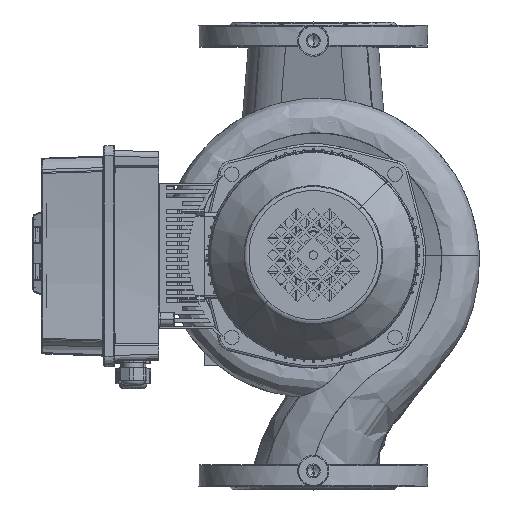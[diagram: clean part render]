
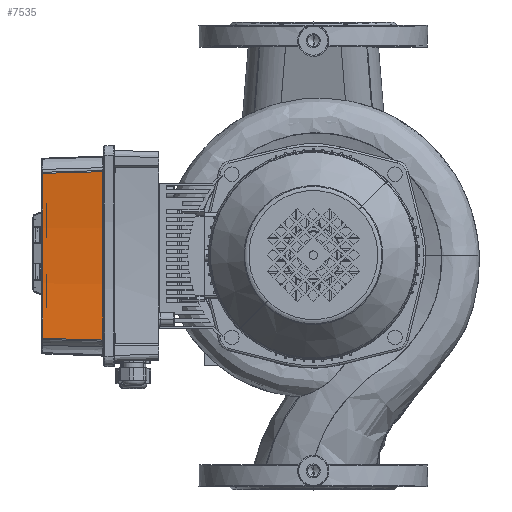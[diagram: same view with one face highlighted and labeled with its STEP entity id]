
A CAD part, top view. The second image highlights one B-rep face of the part: STEP entity #7535.
In plain terms, the highlighted conical face has half-angle 2 degrees and reference radius 845 mm.
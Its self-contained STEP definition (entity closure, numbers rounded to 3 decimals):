
#7535=ADVANCED_FACE('',(#16329),#16330,.F.);
#16329=FACE_OUTER_BOUND('',#36539,.T.);
#16330=CONICAL_SURFACE('',#36540,845.0,0.035);
#36539=EDGE_LOOP('',(#63275,#63276,#63277,#63278));
#36540=AXIS2_PLACEMENT_3D('',#63279,#63280,#63281);
#63275=ORIENTED_EDGE('',*,*,#103606,.F.);
#63276=ORIENTED_EDGE('',*,*,#103661,.F.);
#63277=ORIENTED_EDGE('',*,*,#103622,.F.);
#63278=ORIENTED_EDGE('',*,*,#103650,.F.);
#63279=CARTESIAN_POINT('',(-110.0,1132.065,60.0));
#63280=DIRECTION('',(0.,-0.0,-1.0));
#63281=DIRECTION('',(1.0,0.0,0.));
#103606=EDGE_CURVE('',#131964,#131970,#131971,.T.);
#103622=EDGE_CURVE('',#131991,#131983,#131993,.T.);
#103650=EDGE_CURVE('',#131970,#131991,#132023,.T.);
#103661=EDGE_CURVE('',#131983,#131964,#132035,.T.);
#131964=VERTEX_POINT('',#156665);
#131970=VERTEX_POINT('',#156707);
#131971=B_SPLINE_CURVE_WITH_KNOTS('',3,(#156708,#156709,#156710,#156711,#156712,#156713,#156714,#156715,#156716,#156717,#156718,#156719,#156720,#156721,#156722,#156723,#156724,#156725,#156726,#156727,#156728,#156729,#156730,#156731,#156732),.UNSPECIFIED.,.F.,.F.,(4,3,3,3,3,3,3,3,4),(-60.14,-51.629,-41.43,-35.057,-31.073,-27.089,-20.715,-10.517,-2.006),.UNSPECIFIED.);
#131983=VERTEX_POINT('',#156821);
#131991=VERTEX_POINT('',#156882);
#131993=B_SPLINE_CURVE_WITH_KNOTS('',3,(#156897,#156898,#156899,#156900,#156901,#156902,#156903,#156904,#156905,#156906,#156907,#156908,#156909,#156910,#156911,#156912,#156913,#156914,#156915,#156916,#156917,#156918,#156919,#156920,#156921),.UNSPECIFIED.,.F.,.F.,(4,3,3,3,3,3,3,3,4),(2.006,10.517,20.716,27.09,31.073,35.057,41.431,51.63,60.14),.UNSPECIFIED.);
#132023=CIRCLE('',#157112,847.062);
#132035=CIRCLE('',#157140,845.034);
#156665=CARTESIAN_POINT('',(-190.987,290.921,59.035));
#156707=CARTESIAN_POINT('',(-189.365,288.73,0.965));
#156708=CARTESIAN_POINT('',(-190.987,290.921,59.035));
#156709=CARTESIAN_POINT('',(-190.902,290.814,56.201));
#156710=CARTESIAN_POINT('',(-190.819,290.706,53.368));
#156711=CARTESIAN_POINT('',(-190.736,290.599,50.534));
#156712=CARTESIAN_POINT('',(-190.637,290.47,47.138));
#156713=CARTESIAN_POINT('',(-190.539,290.342,43.743));
#156714=CARTESIAN_POINT('',(-190.442,290.214,40.347));
#156715=CARTESIAN_POINT('',(-190.381,290.133,38.225));
#156716=CARTESIAN_POINT('',(-190.321,290.053,36.103));
#156717=CARTESIAN_POINT('',(-190.261,289.973,33.98));
#156718=CARTESIAN_POINT('',(-190.224,289.923,32.654));
#156719=CARTESIAN_POINT('',(-190.187,289.873,31.327));
#156720=CARTESIAN_POINT('',(-190.15,289.823,30.001));
#156721=CARTESIAN_POINT('',(-190.113,289.773,28.675));
#156722=CARTESIAN_POINT('',(-190.076,289.723,27.348));
#156723=CARTESIAN_POINT('',(-190.04,289.673,26.022));
#156724=CARTESIAN_POINT('',(-189.981,289.593,23.899));
#156725=CARTESIAN_POINT('',(-189.923,289.513,21.777));
#156726=CARTESIAN_POINT('',(-189.865,289.433,19.655));
#156727=CARTESIAN_POINT('',(-189.772,289.305,16.259));
#156728=CARTESIAN_POINT('',(-189.681,289.177,12.863));
#156729=CARTESIAN_POINT('',(-189.59,289.049,9.467));
#156730=CARTESIAN_POINT('',(-189.515,288.943,6.633));
#156731=CARTESIAN_POINT('',(-189.44,288.836,3.799));
#156732=CARTESIAN_POINT('',(-189.365,288.73,0.965));
#156821=CARTESIAN_POINT('',(-29.013,290.921,59.035));
#156882=CARTESIAN_POINT('',(-30.635,288.73,0.965));
#156897=CARTESIAN_POINT('',(-30.635,288.73,0.965));
#156898=CARTESIAN_POINT('',(-30.56,288.836,3.799));
#156899=CARTESIAN_POINT('',(-30.485,288.943,6.633));
#156900=CARTESIAN_POINT('',(-30.41,289.049,9.467));
#156901=CARTESIAN_POINT('',(-30.319,289.177,12.863));
#156902=CARTESIAN_POINT('',(-30.228,289.305,16.259));
#156903=CARTESIAN_POINT('',(-30.135,289.433,19.654));
#156904=CARTESIAN_POINT('',(-30.077,289.513,21.777));
#156905=CARTESIAN_POINT('',(-30.019,289.593,23.899));
#156906=CARTESIAN_POINT('',(-29.96,289.673,26.022));
#156907=CARTESIAN_POINT('',(-29.924,289.723,27.348));
#156908=CARTESIAN_POINT('',(-29.887,289.773,28.674));
#156909=CARTESIAN_POINT('',(-29.85,289.823,30.001));
#156910=CARTESIAN_POINT('',(-29.813,289.873,31.327));
#156911=CARTESIAN_POINT('',(-29.776,289.923,32.654));
#156912=CARTESIAN_POINT('',(-29.739,289.973,33.98));
#156913=CARTESIAN_POINT('',(-29.679,290.053,36.103));
#156914=CARTESIAN_POINT('',(-29.619,290.133,38.225));
#156915=CARTESIAN_POINT('',(-29.558,290.214,40.347));
#156916=CARTESIAN_POINT('',(-29.461,290.342,43.743));
#156917=CARTESIAN_POINT('',(-29.363,290.47,47.139));
#156918=CARTESIAN_POINT('',(-29.264,290.599,50.534));
#156919=CARTESIAN_POINT('',(-29.181,290.706,53.368));
#156920=CARTESIAN_POINT('',(-29.098,290.814,56.201));
#156921=CARTESIAN_POINT('',(-29.013,290.921,59.035));
#157112=AXIS2_PLACEMENT_3D('',#189833,#189834,#189835);
#157140=AXIS2_PLACEMENT_3D('',#189845,#189846,#189847);
#189833=CARTESIAN_POINT('',(-110.0,1132.065,0.965));
#189834=DIRECTION('',(0.,0.,1.0));
#189835=DIRECTION('',(0.0,-1.0,0.));
#189845=CARTESIAN_POINT('',(-110.0,1132.065,59.035));
#189846=DIRECTION('',(-0.0,-0.0,-1.0));
#189847=DIRECTION('',(0.0,-1.0,0.0));
